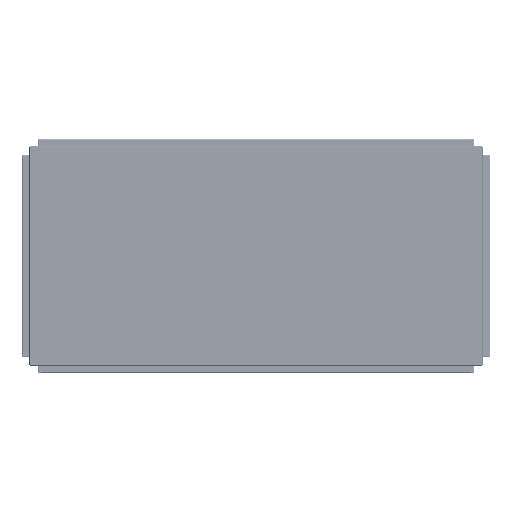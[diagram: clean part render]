
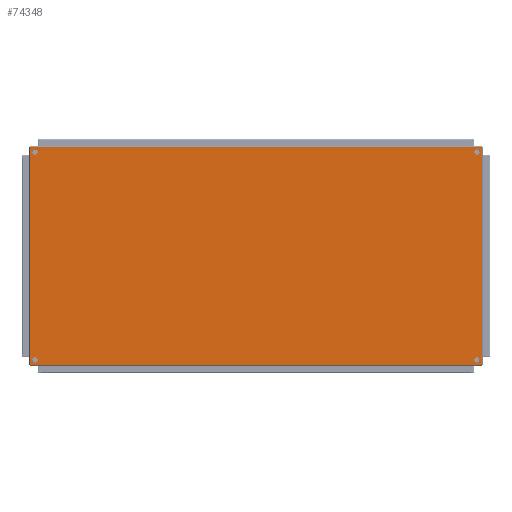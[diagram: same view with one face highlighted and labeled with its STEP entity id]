
A CAD part, left-side view. The second image highlights one B-rep face of the part: STEP entity #74348.
In plain terms, the highlighted planar face has unit normal (-1, 0, 0) as drawn and (0, 0, -1) by its records, which use the part's own axes.
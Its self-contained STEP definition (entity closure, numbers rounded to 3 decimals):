
#354 = EDGE_CURVE ( 'NONE', #43562, #80330, #54986, .T. ) ;
#1075 = CARTESIAN_POINT ( 'NONE',  ( 279., -579., -1.5 ) ) ;
#1498 = ORIENTED_EDGE ( 'NONE', *, *, #354, .F. ) ;
#4530 = FACE_BOUND ( 'NONE', #81700, .T. ) ;
#5463 = DIRECTION ( 'NONE',  ( 0., 0., -1. ) ) ;
#6116 = CARTESIAN_POINT ( 'NONE',  ( -259.67, 566.42, -1.5 ) ) ;
#8270 = CIRCLE ( 'NONE', #36878, 6.75 ) ;
#9403 = EDGE_LOOP ( 'NONE', ( #1498, #78369 ) ) ;
#10449 = CARTESIAN_POINT ( 'NONE',  ( -273.17, 566.42, -1.5 ) ) ;
#10867 = DIRECTION ( 'NONE',  ( -1., 0., 0. ) ) ;
#10936 = DIRECTION ( 'NONE',  ( 0., 0., -1. ) ) ;
#11156 = DIRECTION ( 'NONE',  ( 1., 0., 0. ) ) ;
#11438 = VECTOR ( 'NONE', #21830, 1000. ) ;
#11892 = DIRECTION ( 'NONE',  ( 0., 0., -1. ) ) ;
#12207 = CARTESIAN_POINT ( 'NONE',  ( -279., 579., -1.5 ) ) ;
#12461 = VERTEX_POINT ( 'NONE', #16795 ) ;
#14244 = VECTOR ( 'NONE', #72380, 1000. ) ;
#14635 = LINE ( 'NONE', #61982, #11438 ) ;
#14897 = CARTESIAN_POINT ( 'NONE',  ( 279., 579., -1.5 ) ) ;
#15086 = FACE_OUTER_BOUND ( 'NONE', #65938, .T. ) ;
#16795 = CARTESIAN_POINT ( 'NONE',  ( 273.17, -566.42, -1.5 ) ) ;
#17314 = EDGE_CURVE ( 'NONE', #86294, #65846, #14635, .T. ) ;
#17645 = DIRECTION ( 'NONE',  ( -1., 0., 0. ) ) ;
#18350 = EDGE_CURVE ( 'NONE', #74284, #51728, #43826, .T. ) ;
#20142 = EDGE_CURVE ( 'NONE', #12461, #34639, #48673, .T. ) ;
#20971 = AXIS2_PLACEMENT_3D ( 'NONE', #85823, #5463, #65620 ) ;
#21830 = DIRECTION ( 'NONE',  ( -1., 0., 0. ) ) ;
#22710 = DIRECTION ( 'NONE',  ( 1., 0., 0. ) ) ;
#23624 = ORIENTED_EDGE ( 'NONE', *, *, #78521, .F. ) ;
#23679 = EDGE_CURVE ( 'NONE', #80330, #43562, #63861, .T. ) ;
#24971 = CARTESIAN_POINT ( 'NONE',  ( 266.42, 566.42, -1.5 ) ) ;
#25246 = DIRECTION ( 'NONE',  ( 1., 0., 0. ) ) ;
#27186 = EDGE_CURVE ( 'NONE', #77416, #86294, #84141, .T. ) ;
#27497 = CARTESIAN_POINT ( 'NONE',  ( 259.67, 566.42, -1.5 ) ) ;
#30219 = EDGE_LOOP ( 'NONE', ( #23624, #56012 ) ) ;
#31548 = DIRECTION ( 'NONE',  ( 0., 0., -1. ) ) ;
#32130 = DIRECTION ( 'NONE',  ( 1., 0., 0. ) ) ;
#32400 = DIRECTION ( 'NONE',  ( -1., 0., 0. ) ) ;
#34225 = CARTESIAN_POINT ( 'NONE',  ( -273.17, -566.42, -1.5 ) ) ;
#34639 = VERTEX_POINT ( 'NONE', #56372 ) ;
#36878 = AXIS2_PLACEMENT_3D ( 'NONE', #24971, #51725, #25246 ) ;
#38144 = ORIENTED_EDGE ( 'NONE', *, *, #86014, .F. ) ;
#38147 = CARTESIAN_POINT ( 'NONE',  ( -266.42, 566.42, -1.5 ) ) ;
#38912 = ORIENTED_EDGE ( 'NONE', *, *, #20142, .F. ) ;
#43562 = VERTEX_POINT ( 'NONE', #10449 ) ;
#43826 = CIRCLE ( 'NONE', #54242, 6.75 ) ;
#44218 = EDGE_CURVE ( 'NONE', #55331, #44791, #84266, .T. ) ;
#44684 = CIRCLE ( 'NONE', #20971, 6.75 ) ;
#44791 = VERTEX_POINT ( 'NONE', #54999 ) ;
#44834 = CARTESIAN_POINT ( 'NONE',  ( -266.42, 566.42, -1.5 ) ) ;
#45941 = AXIS2_PLACEMENT_3D ( 'NONE', #71426, #31548, #32400 ) ;
#47621 = ORIENTED_EDGE ( 'NONE', *, *, #67058, .F. ) ;
#47807 = CIRCLE ( 'NONE', #53168, 6.75 ) ;
#48673 = CIRCLE ( 'NONE', #45941, 6.75 ) ;
#49453 = CARTESIAN_POINT ( 'NONE',  ( -279., -579., -1.5 ) ) ;
#50700 = ORIENTED_EDGE ( 'NONE', *, *, #17314, .F. ) ;
#50848 = CARTESIAN_POINT ( 'NONE',  ( 266.42, 566.42, -1.5 ) ) ;
#50919 = ORIENTED_EDGE ( 'NONE', *, *, #44218, .F. ) ;
#51009 = CARTESIAN_POINT ( 'NONE',  ( -266.42, -566.42, -1.5 ) ) ;
#51725 = DIRECTION ( 'NONE',  ( 0., 0., -1. ) ) ;
#51728 = VERTEX_POINT ( 'NONE', #27497 ) ;
#52235 = VERTEX_POINT ( 'NONE', #61551 ) ;
#53168 = AXIS2_PLACEMENT_3D ( 'NONE', #77824, #10936, #17645 ) ;
#53390 = ORIENTED_EDGE ( 'NONE', *, *, #27186, .F. ) ;
#54151 = AXIS2_PLACEMENT_3D ( 'NONE', #38147, #71565, #10867 ) ;
#54242 = AXIS2_PLACEMENT_3D ( 'NONE', #50848, #71291, #11156 ) ;
#54692 = CARTESIAN_POINT ( 'NONE',  ( 279., 579., -1.5 ) ) ;
#54986 = CIRCLE ( 'NONE', #54151, 6.75 ) ;
#54999 = CARTESIAN_POINT ( 'NONE',  ( -259.67, -566.42, -1.5 ) ) ;
#55331 = VERTEX_POINT ( 'NONE', #34225 ) ;
#55774 = VECTOR ( 'NONE', #68171, 1000. ) ;
#56012 = ORIENTED_EDGE ( 'NONE', *, *, #18350, .F. ) ;
#56177 = EDGE_CURVE ( 'NONE', #44791, #55331, #44684, .T. ) ;
#56372 = CARTESIAN_POINT ( 'NONE',  ( 259.67, -566.42, -1.5 ) ) ;
#58042 = DIRECTION ( 'NONE',  ( 0., 0., 1. ) ) ;
#60450 = LINE ( 'NONE', #85295, #14244 ) ;
#61551 = CARTESIAN_POINT ( 'NONE',  ( -279., -579., -1.5 ) ) ;
#61982 = CARTESIAN_POINT ( 'NONE',  ( -279., 579., -1.5 ) ) ;
#63336 = EDGE_CURVE ( 'NONE', #34639, #12461, #47807, .T. ) ;
#63861 = CIRCLE ( 'NONE', #64631, 6.75 ) ;
#63881 = CARTESIAN_POINT ( 'NONE',  ( 273.17, 566.42, -1.5 ) ) ;
#64072 = ORIENTED_EDGE ( 'NONE', *, *, #56177, .F. ) ;
#64631 = AXIS2_PLACEMENT_3D ( 'NONE', #44834, #70625, #84387 ) ;
#64753 = AXIS2_PLACEMENT_3D ( 'NONE', #51009, #11892, #32130 ) ;
#65620 = DIRECTION ( 'NONE',  ( 1., 0., 0. ) ) ;
#65846 = VERTEX_POINT ( 'NONE', #12207 ) ;
#65938 = EDGE_LOOP ( 'NONE', ( #38144, #50700, #53390, #47621 ) ) ;
#66526 = FACE_BOUND ( 'NONE', #9403, .T. ) ;
#67058 = EDGE_CURVE ( 'NONE', #52235, #77416, #83946, .T. ) ;
#68171 = DIRECTION ( 'NONE',  ( 0., 1., 0. ) ) ;
#70625 = DIRECTION ( 'NONE',  ( 0., 0., -1. ) ) ;
#71233 = ORIENTED_EDGE ( 'NONE', *, *, #63336, .F. ) ;
#71291 = DIRECTION ( 'NONE',  ( 0., 0., -1. ) ) ;
#71426 = CARTESIAN_POINT ( 'NONE',  ( 266.42, -566.42, -1.5 ) ) ;
#71565 = DIRECTION ( 'NONE',  ( 0., 0., -1. ) ) ;
#72380 = DIRECTION ( 'NONE',  ( 0., -1., 0. ) ) ;
#74284 = VERTEX_POINT ( 'NONE', #63881 ) ;
#74348 = ADVANCED_FACE ( 'NONE', ( #82217, #80150, #4530, #66526, #15086 ), #78554, .F. ) ;
#74721 = EDGE_LOOP ( 'NONE', ( #50919, #64072 ) ) ;
#77416 = VERTEX_POINT ( 'NONE', #1075 ) ;
#77824 = CARTESIAN_POINT ( 'NONE',  ( 266.42, -566.42, -1.5 ) ) ;
#78280 = DIRECTION ( 'NONE',  ( 1., 0., 0. ) ) ;
#78369 = ORIENTED_EDGE ( 'NONE', *, *, #23679, .F. ) ;
#78521 = EDGE_CURVE ( 'NONE', #51728, #74284, #8270, .T. ) ;
#78554 = PLANE ( 'NONE',  #83376 ) ;
#78731 = VECTOR ( 'NONE', #22710, 1000. ) ;
#80150 = FACE_BOUND ( 'NONE', #30219, .T. ) ;
#80330 = VERTEX_POINT ( 'NONE', #6116 ) ;
#81700 = EDGE_LOOP ( 'NONE', ( #71233, #38912 ) ) ;
#82217 = FACE_BOUND ( 'NONE', #74721, .T. ) ;
#83376 = AXIS2_PLACEMENT_3D ( 'NONE', #85273, #58042, #78280 ) ;
#83946 = LINE ( 'NONE', #49453, #78731 ) ;
#84141 = LINE ( 'NONE', #54692, #55774 ) ;
#84266 = CIRCLE ( 'NONE', #64753, 6.75 ) ;
#84387 = DIRECTION ( 'NONE',  ( -1., 0., 0. ) ) ;
#85273 = CARTESIAN_POINT ( 'NONE',  ( 0., 0., -1.5 ) ) ;
#85295 = CARTESIAN_POINT ( 'NONE',  ( -279., 579., -1.5 ) ) ;
#85823 = CARTESIAN_POINT ( 'NONE',  ( -266.42, -566.42, -1.5 ) ) ;
#86014 = EDGE_CURVE ( 'NONE', #65846, #52235, #60450, .T. ) ;
#86294 = VERTEX_POINT ( 'NONE', #14897 ) ;
